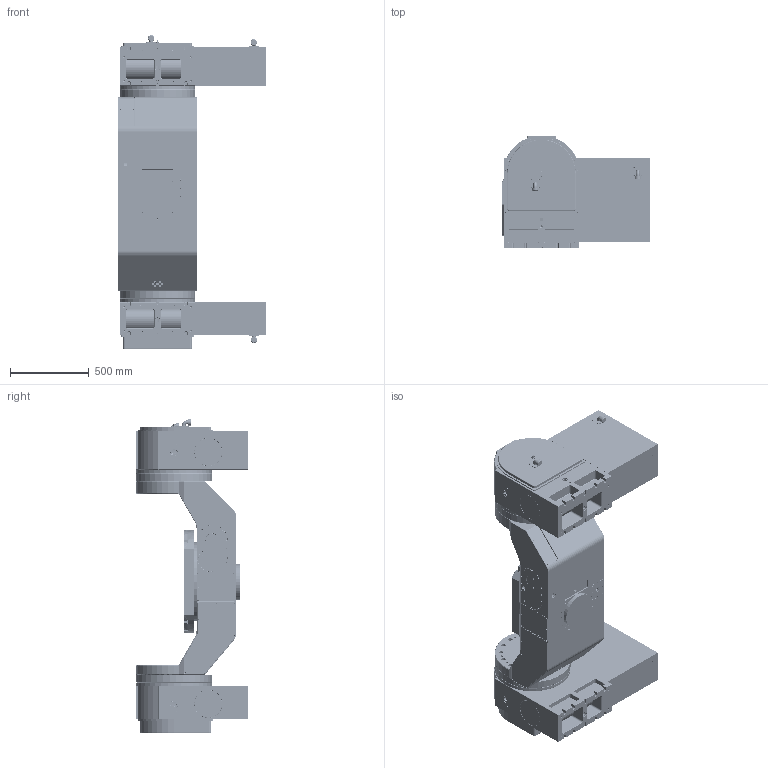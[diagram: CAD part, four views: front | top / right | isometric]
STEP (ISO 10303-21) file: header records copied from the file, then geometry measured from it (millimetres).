
FILE_DESCRIPTION (( 'STEP AP203' ), '1' );
FILE_NAME ('WDS-RTS650 喜渡俋夤芞 REV.01.STEP', '2022-09-21T08:52:42', ( '' ), ( '' ), 'SwSTEP 2.0', 'SolidWorks 2021', '' );
FILE_SCHEMA (( 'CONFIG_CONTROL_DESIGN' ));
Products named in the file (1): WDS-RTS650 喜渡俋夤芞 REV.01
Bounding box: 943 x 711 x 1987.5 mm (x, y, z)
Volume: 314743818.9 mm3; surface area: 13502338.5 mm2
Topology: 21 solids, 69 shells, 6254 faces, 15025 edges, 8893 vertices
Faces by surface type: cylinder 2598, plane 1739, cone 1713, torus 131, sphere 42, bspline 31
Entity records: 185509 total; most frequent: CARTESIAN_POINT 38623, DIRECTION 32790, ORIENTED_EDGE 28978, EDGE_CURVE 14489, AXIS2_PLACEMENT_3D 12752, VERTEX_POINT 8893, EDGE_LOOP 7322, VECTOR 7286
